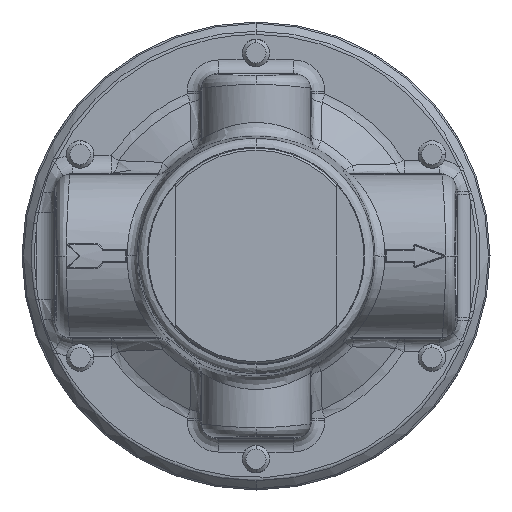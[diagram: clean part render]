
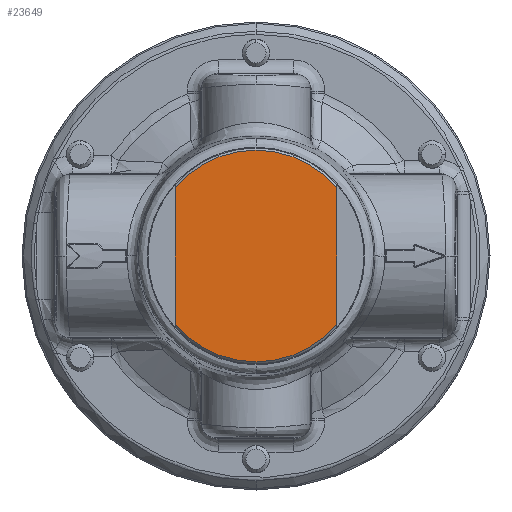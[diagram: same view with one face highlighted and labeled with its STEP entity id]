
A CAD part, front view. The second image highlights one B-rep face of the part: STEP entity #23649.
In plain terms, the highlighted planar face has unit normal (0, -1, 0).
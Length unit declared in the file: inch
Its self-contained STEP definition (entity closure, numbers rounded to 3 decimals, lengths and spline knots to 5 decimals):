
#3700 = CARTESIAN_POINT ( 'NONE',  ( 0.55875, -1.906, 0.47366 ) ) ;
#3714 = CARTESIAN_POINT ( 'NONE',  ( -0.55875, -1.906, -0.47366 ) ) ;
#3721 = CARTESIAN_POINT ( 'NONE',  ( 0.55875, -1.906, -0.47366 ) ) ;
#3726 = CARTESIAN_POINT ( 'NONE',  ( -0.55875, -1.906, 0.47366 ) ) ;
#4283 = LINE ( 'NONE', #4284, #11633 ) ;
#4284 = CARTESIAN_POINT ( 'NONE',  ( -0.55875, -1.906, -0.7475 ) ) ;
#4288 = LINE ( 'NONE', #4293, #11625 ) ;
#4292 = DIRECTION ( 'NONE',  ( 0., 0., -1. ) ) ;
#4293 = CARTESIAN_POINT ( 'NONE',  ( 0.55875, -1.906, -0.7475 ) ) ;
#4294 = DIRECTION ( 'NONE',  ( 0., 0., -1. ) ) ;
#4297 = CARTESIAN_POINT ( 'NONE',  ( 0., -1.906, 0. ) ) ;
#4298 = DIRECTION ( 'NONE',  ( 0., 1., 0. ) ) ;
#4299 = DIRECTION ( 'NONE',  ( -1., 0., 0. ) ) ;
#4307 = CARTESIAN_POINT ( 'NONE',  ( 0., -1.906, 0. ) ) ;
#4308 = DIRECTION ( 'NONE',  ( 0., 1., 0. ) ) ;
#4309 = DIRECTION ( 'NONE',  ( -1., 0., 0. ) ) ;
#4979 = AXIS2_PLACEMENT_3D ( 'NONE', #7099, #7105, #7106 ) ;
#7099 = CARTESIAN_POINT ( 'NONE',  ( 0., -1.906, 0. ) ) ;
#7101 = FACE_OUTER_BOUND ( 'NONE', #8550, .T. ) ;
#7102 = PLANE ( 'NONE',  #4979 ) ;
#7105 = DIRECTION ( 'NONE',  ( 0., -1., 0. ) ) ;
#7106 = DIRECTION ( 'NONE',  ( 1., 0., 0. ) ) ;
#8550 = EDGE_LOOP ( 'NONE', ( #10939, #10940, #10941, #10942 ) ) ;
#10939 = ORIENTED_EDGE ( 'NONE', *, *, #24176, .F. ) ;
#10940 = ORIENTED_EDGE ( 'NONE', *, *, #24177, .F. ) ;
#10941 = ORIENTED_EDGE ( 'NONE', *, *, #24175, .T. ) ;
#10942 = ORIENTED_EDGE ( 'NONE', *, *, #24180, .F. ) ;
#11613 = CIRCLE ( 'NONE', #11615, 0.7325 ) ;
#11615 = AXIS2_PLACEMENT_3D ( 'NONE', #4307, #4308, #4309 ) ;
#11623 = AXIS2_PLACEMENT_3D ( 'NONE', #4297, #4298, #4299 ) ;
#11625 = VECTOR ( 'NONE', #4294, 39.37008 ) ;
#11629 = CIRCLE ( 'NONE', #11623, 0.7325 ) ;
#11633 = VECTOR ( 'NONE', #4292, 39.37008 ) ;
#18167 = VERTEX_POINT ( 'NONE', #3714 ) ;
#18171 = VERTEX_POINT ( 'NONE', #3700 ) ;
#18174 = VERTEX_POINT ( 'NONE', #3721 ) ;
#18178 = VERTEX_POINT ( 'NONE', #3726 ) ;
#23649 = ADVANCED_FACE ( 'NONE', ( #7101 ), #7102, .T. ) ;
#24175 = EDGE_CURVE ( 'NONE', #18178, #18167, #4283, .T. ) ;
#24176 = EDGE_CURVE ( 'NONE', #18171, #18174, #4288, .T. ) ;
#24177 = EDGE_CURVE ( 'NONE', #18178, #18171, #11629, .T. ) ;
#24180 = EDGE_CURVE ( 'NONE', #18174, #18167, #11613, .T. ) ;
